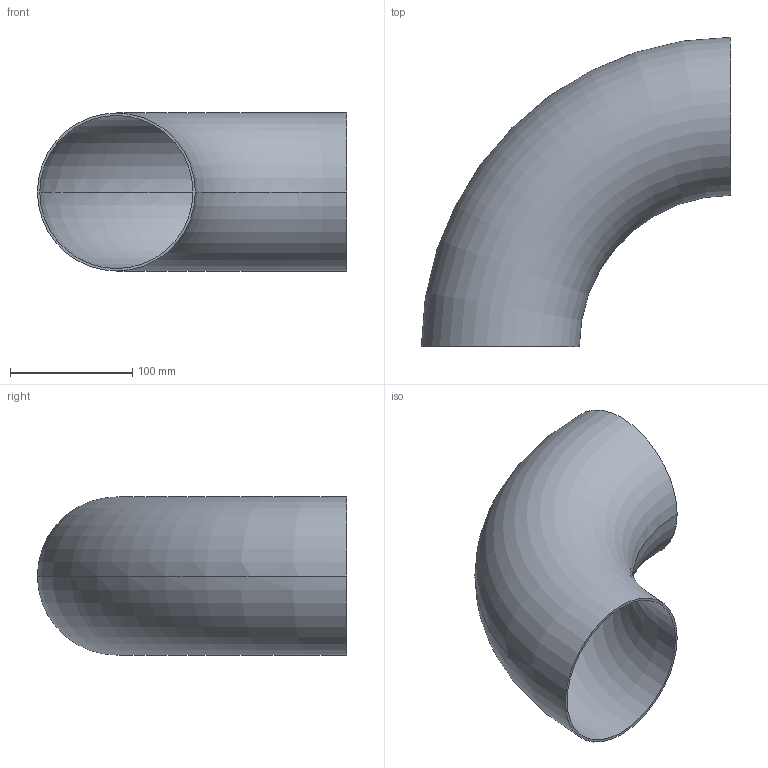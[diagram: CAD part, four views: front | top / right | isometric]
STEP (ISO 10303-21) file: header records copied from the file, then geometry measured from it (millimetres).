
FILE_DESCRIPTION (( 'STEP AP203' ), '1' );
FILE_NAME ('OT212-125-129x2_OSTP.step', '2020-12-16T02:45:14', ( '' ), ( '' ), 'SwSTEP 2.0', 'SolidWorks 2014', '' );
FILE_SCHEMA (( 'CONFIG_CONTROL_DESIGN' ));
Length unit declared in the file: millimetre
Products named in the file (1): OT212-125-129x2_OSTP
Bounding box: 252.5 x 252.5 x 129 mm (x, y, z)
Volume: 235646.7 mm3; surface area: 237242.6 mm2
Topology: 1 solids, 1 shells, 6 faces, 12 edges, 8 vertices
Faces by surface type: torus 4, plane 2
Entity records: 249 total; most frequent: DIRECTION 38, CARTESIAN_POINT 27, ORIENTED_EDGE 24, AXIS2_PLACEMENT_3D 19, CIRCLE 12, EDGE_CURVE 12, PERSON_AND_ORGANIZATION 8, VERTEX_POINT 8
